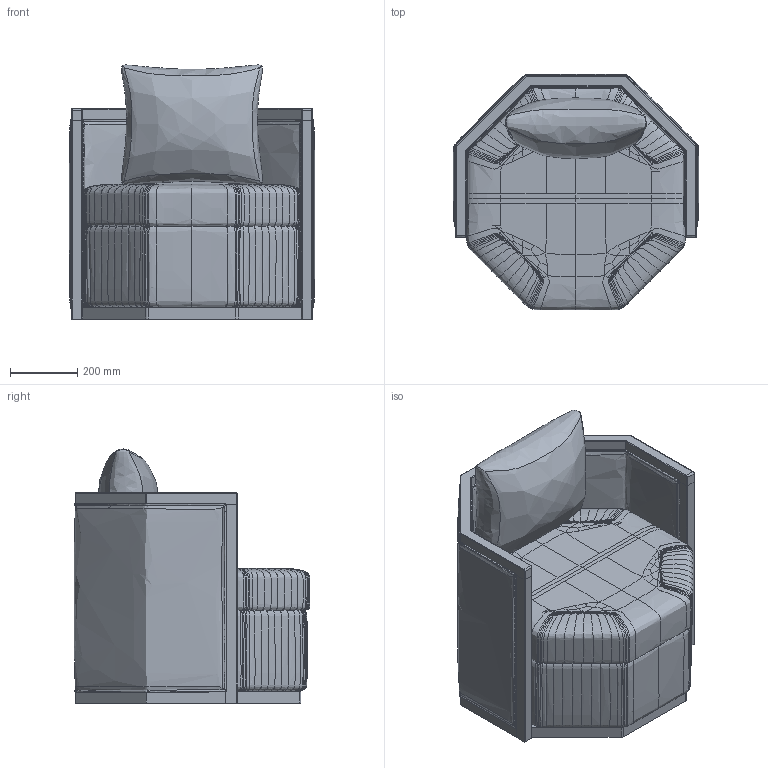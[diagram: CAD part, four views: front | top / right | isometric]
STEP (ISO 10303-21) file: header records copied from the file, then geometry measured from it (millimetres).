
FILE_DESCRIPTION(/* description */ (''),/* implementation_level */ '2;1');
FILE_NAME(/* name */ 'kinoshita_abord_w013',/* time_stamp */ '2024-09-30T17:56:51+09:00',/* author */ (''),/* organization */ (''),/* preprocessor_version */ 'ST-DEVELOPER v16.5',/* originating_system */ '',/* authorisation */ '');
FILE_SCHEMA (('AUTOMOTIVE_DESIGN'));
Length unit declared in the file: millimetre
Products named in the file (1): Document
Bounding box: 728.09 x 700.24 x 754.47 mm (x, y, z)
Volume: 192396022.7 mm3; surface area: 4432461.1 mm2
Topology: 3 solids, 3 shells, 651 faces, 1672 edges, 995 vertices
Faces by surface type: bspline 350, plane 301
Entity records: 111955 total; most frequent: CARTESIAN_POINT 101214, ORIENTED_EDGE 3344, EDGE_CURVE 1672, B_SPLINE_CURVE_WITH_KNOTS 1560, VERTEX_POINT 995, EDGE_LOOP 671, ADVANCED_FACE 651, FACE_OUTER_BOUND 651
